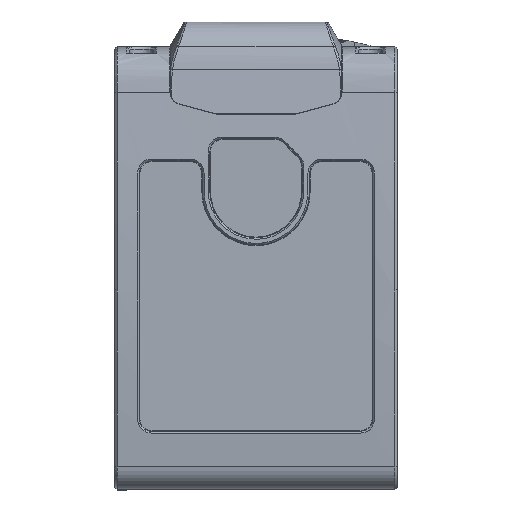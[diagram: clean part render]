
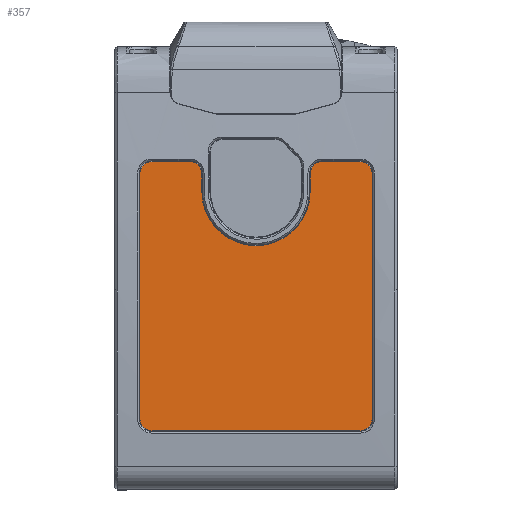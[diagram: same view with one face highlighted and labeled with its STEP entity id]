
A CAD part, top view. The second image highlights one B-rep face of the part: STEP entity #357.
In plain terms, the highlighted planar face has unit normal (0, 0, 1).
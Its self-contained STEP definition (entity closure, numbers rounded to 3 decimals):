
#357=ADVANCED_FACE('',(#696),#6582,.T.);
#696=FACE_OUTER_BOUND('',#1057,.T.);
#1057=EDGE_LOOP('',(#2105,#2106,#2107,#2108,#2109,#2110,#2111,#2112,#2113,
#2114,#2115,#2116,#2117,#2118));
#2105=ORIENTED_EDGE('',*,*,#3705,.T.);
#2106=ORIENTED_EDGE('',*,*,#3706,.T.);
#2107=ORIENTED_EDGE('',*,*,#3707,.T.);
#2108=ORIENTED_EDGE('',*,*,#3708,.T.);
#2109=ORIENTED_EDGE('',*,*,#3709,.T.);
#2110=ORIENTED_EDGE('',*,*,#3710,.T.);
#2111=ORIENTED_EDGE('',*,*,#3697,.T.);
#2112=ORIENTED_EDGE('',*,*,#3692,.F.);
#2113=ORIENTED_EDGE('',*,*,#3711,.T.);
#2114=ORIENTED_EDGE('',*,*,#3713,.T.);
#2115=ORIENTED_EDGE('',*,*,#3690,.T.);
#2116=ORIENTED_EDGE('',*,*,#3685,.F.);
#2117=ORIENTED_EDGE('',*,*,#3712,.T.);
#2118=ORIENTED_EDGE('',*,*,#3699,.F.);
#3685=EDGE_CURVE('',#6145,#6146,#5270,.T.);
#3690=EDGE_CURVE('',#6150,#6146,#4760,.T.);
#3692=EDGE_CURVE('',#6151,#6152,#5272,.T.);
#3697=EDGE_CURVE('',#6156,#6152,#4765,.T.);
#3699=EDGE_CURVE('',#6157,#6158,#5274,.T.);
#3705=EDGE_CURVE('',#6157,#6162,#4771,.T.);
#3706=EDGE_CURVE('',#6162,#6163,#5276,.T.);
#3707=EDGE_CURVE('',#6163,#6164,#4772,.T.);
#3708=EDGE_CURVE('',#6164,#6165,#5277,.T.);
#3709=EDGE_CURVE('',#6165,#6166,#4773,.T.);
#3710=EDGE_CURVE('',#6166,#6156,#5278,.T.);
#3711=EDGE_CURVE('',#6151,#6167,#4774,.T.);
#3712=EDGE_CURVE('',#6145,#6158,#4775,.T.);
#3713=EDGE_CURVE('',#6167,#6150,#5279,.T.);
#4760=B_SPLINE_CURVE_WITH_KNOTS('',1,(#14009,#14010),.UNSPECIFIED.,.F.,
 .F.,(2,2),(-16.9,0.),.UNSPECIFIED.);
#4765=B_SPLINE_CURVE_WITH_KNOTS('',1,(#14025,#14026),.UNSPECIFIED.,.F.,
 .F.,(2,2),(-3.05,0.),.UNSPECIFIED.);
#4771=B_SPLINE_CURVE_WITH_KNOTS('',1,(#14043,#14044),.UNSPECIFIED.,.F.,
 .F.,(2,2),(-3.05,0.),.UNSPECIFIED.);
#4772=B_SPLINE_CURVE_WITH_KNOTS('',1,(#14048,#14049),.UNSPECIFIED.,.F.,
 .F.,(2,2),(0.,1.45),.UNSPECIFIED.);
#4773=B_SPLINE_CURVE_WITH_KNOTS('',1,(#14053,#14054),.UNSPECIFIED.,.F.,
 .F.,(2,2),(0.,1.45),.UNSPECIFIED.);
#4774=B_SPLINE_CURVE_WITH_KNOTS('',1,(#14058,#14059),.UNSPECIFIED.,.F.,
 .F.,(2,2),(0.,19.9),.UNSPECIFIED.);
#4775=B_SPLINE_CURVE_WITH_KNOTS('',1,(#14060,#14061),.UNSPECIFIED.,.F.,
 .F.,(2,2),(0.,19.9),.UNSPECIFIED.);
#5270=TRIMMED_CURVE($,#5529,(#13998),(#13999),.T.,.CARTESIAN.);
#5272=TRIMMED_CURVE($,#5531,(#14014),(#14015),.T.,.CARTESIAN.);
#5274=TRIMMED_CURVE($,#5533,(#14030),(#14031),.T.,.CARTESIAN.);
#5276=TRIMMED_CURVE($,#5535,(#14046),(#14047),.T.,.CARTESIAN.);
#5277=TRIMMED_CURVE($,#5536,(#14051),(#14052),.T.,.CARTESIAN.);
#5278=TRIMMED_CURVE($,#5537,(#14056),(#14057),.T.,.CARTESIAN.);
#5279=TRIMMED_CURVE($,#5538,(#14063),(#14064),.T.,.CARTESIAN.);
#5529=CIRCLE('',#7016,1.);
#5531=CIRCLE('',#7018,1.);
#5533=CIRCLE('',#7020,1.);
#5535=CIRCLE('',#7022,1.);
#5536=CIRCLE('',#7023,4.4);
#5537=CIRCLE('',#7024,1.);
#5538=CIRCLE('',#7025,1.);
#6145=VERTEX_POINT('',#13973);
#6146=VERTEX_POINT('',#13974);
#6150=VERTEX_POINT('',#13978);
#6151=VERTEX_POINT('',#13979);
#6152=VERTEX_POINT('',#13980);
#6156=VERTEX_POINT('',#13984);
#6157=VERTEX_POINT('',#13985);
#6158=VERTEX_POINT('',#13986);
#6162=VERTEX_POINT('',#13990);
#6163=VERTEX_POINT('',#13991);
#6164=VERTEX_POINT('',#13992);
#6165=VERTEX_POINT('',#13993);
#6166=VERTEX_POINT('',#13994);
#6167=VERTEX_POINT('',#13995);
#6582=PLANE('',#7014);
#7014=AXIS2_PLACEMENT_3D('',#13971,#7586,$);
#7016=AXIS2_PLACEMENT_3D($,#13997,#7588,#7589);
#7018=AXIS2_PLACEMENT_3D($,#14013,#7592,#7593);
#7020=AXIS2_PLACEMENT_3D($,#14029,#7596,#7597);
#7022=AXIS2_PLACEMENT_3D($,#14045,#7600,#7601);
#7023=AXIS2_PLACEMENT_3D($,#14050,#7602,#7603);
#7024=AXIS2_PLACEMENT_3D($,#14055,#7604,#7605);
#7025=AXIS2_PLACEMENT_3D($,#14062,#7606,#7607);
#7586=DIRECTION('',(0.,0.,1.));
#7588=DIRECTION('',(0.,0.,-1.));
#7589=DIRECTION('',(1.,0.,0.));
#7592=DIRECTION('',(0.,0.,-1.));
#7593=DIRECTION('',(-1.,0.,0.));
#7596=DIRECTION('',(0.,0.,-1.));
#7597=DIRECTION('',(0.,1.,0.));
#7600=DIRECTION('',(0.,0.,1.));
#7601=DIRECTION('',(0.,1.,0.));
#7602=DIRECTION('',(0.,0.,-1.));
#7603=DIRECTION('',(1.,0.,0.));
#7604=DIRECTION('',(0.,0.,1.));
#7605=DIRECTION('',(1.,0.,0.));
#7606=DIRECTION('',(0.,0.,1.));
#7607=DIRECTION('',(-1.,0.,0.));
#13971=CARTESIAN_POINT('',(-11.34,2.56,40.5));
#13973=CARTESIAN_POINT('',(9.45,5.75,40.5));
#13974=CARTESIAN_POINT('',(8.45,4.75,40.5));
#13978=CARTESIAN_POINT('',(-8.45,4.75,40.5));
#13979=CARTESIAN_POINT('',(-9.45,25.65,40.5));
#13980=CARTESIAN_POINT('',(-8.45,26.65,40.5));
#13984=CARTESIAN_POINT('',(-5.4,26.65,40.5));
#13985=CARTESIAN_POINT('',(8.45,26.65,40.5));
#13986=CARTESIAN_POINT('',(9.45,25.65,40.5));
#13990=CARTESIAN_POINT('',(5.4,26.65,40.5));
#13991=CARTESIAN_POINT('',(4.4,25.65,40.5));
#13992=CARTESIAN_POINT('',(4.4,24.2,40.5));
#13993=CARTESIAN_POINT('',(-4.4,24.2,40.5));
#13994=CARTESIAN_POINT('',(-4.4,25.65,40.5));
#13995=CARTESIAN_POINT('',(-9.45,5.75,40.5));
#13997=CARTESIAN_POINT('',(8.45,5.75,40.5));
#13998=CARTESIAN_POINT('',(9.45,5.75,40.5));
#13999=CARTESIAN_POINT('',(8.45,4.75,40.5));
#14009=CARTESIAN_POINT('',(-8.45,4.75,40.5));
#14010=CARTESIAN_POINT('',(8.45,4.75,40.5));
#14013=CARTESIAN_POINT('',(-8.45,25.65,40.5));
#14014=CARTESIAN_POINT('',(-9.45,25.65,40.5));
#14015=CARTESIAN_POINT('',(-8.45,26.65,40.5));
#14025=CARTESIAN_POINT('',(-5.4,26.65,40.5));
#14026=CARTESIAN_POINT('',(-8.45,26.65,40.5));
#14029=CARTESIAN_POINT('',(8.45,25.65,40.5));
#14030=CARTESIAN_POINT('',(8.45,26.65,40.5));
#14031=CARTESIAN_POINT('',(9.45,25.65,40.5));
#14043=CARTESIAN_POINT('',(8.45,26.65,40.5));
#14044=CARTESIAN_POINT('',(5.4,26.65,40.5));
#14045=CARTESIAN_POINT('',(5.4,25.65,40.5));
#14046=CARTESIAN_POINT('',(5.4,26.65,40.5));
#14047=CARTESIAN_POINT('',(4.4,25.65,40.5));
#14048=CARTESIAN_POINT('',(4.4,25.65,40.5));
#14049=CARTESIAN_POINT('',(4.4,24.2,40.5));
#14050=CARTESIAN_POINT('',(0.,24.2,40.5));
#14051=CARTESIAN_POINT('',(4.4,24.2,40.5));
#14052=CARTESIAN_POINT('',(-4.4,24.2,40.5));
#14053=CARTESIAN_POINT('',(-4.4,24.2,40.5));
#14054=CARTESIAN_POINT('',(-4.4,25.65,40.5));
#14055=CARTESIAN_POINT('',(-5.4,25.65,40.5));
#14056=CARTESIAN_POINT('',(-4.4,25.65,40.5));
#14057=CARTESIAN_POINT('',(-5.4,26.65,40.5));
#14058=CARTESIAN_POINT('',(-9.45,25.65,40.5));
#14059=CARTESIAN_POINT('',(-9.45,5.75,40.5));
#14060=CARTESIAN_POINT('',(9.45,5.75,40.5));
#14061=CARTESIAN_POINT('',(9.45,25.65,40.5));
#14062=CARTESIAN_POINT('',(-8.45,5.75,40.5));
#14063=CARTESIAN_POINT('',(-9.45,5.75,40.5));
#14064=CARTESIAN_POINT('',(-8.45,4.75,40.5));
